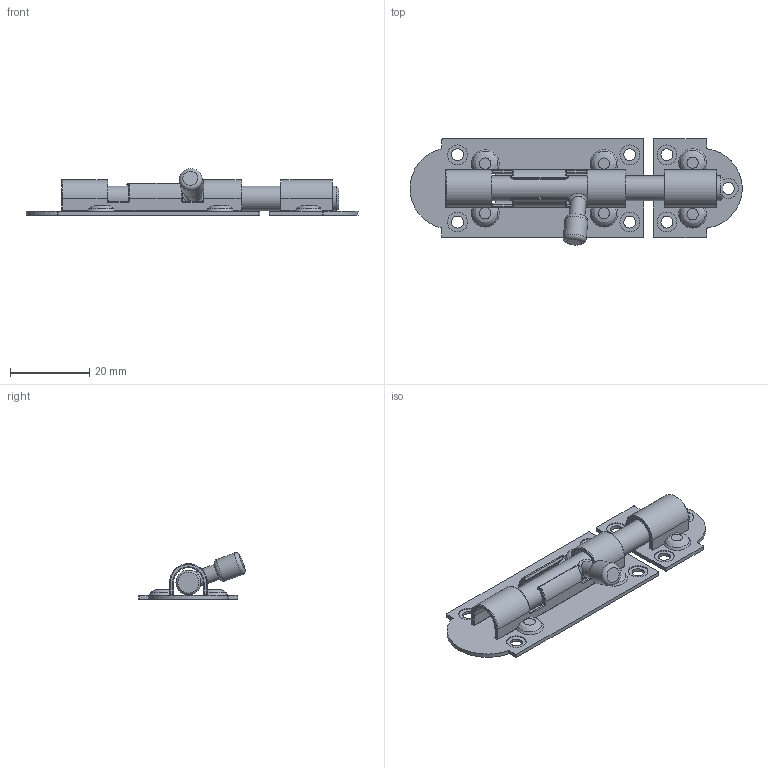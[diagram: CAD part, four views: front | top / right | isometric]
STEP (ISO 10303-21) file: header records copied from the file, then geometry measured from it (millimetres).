
FILE_DESCRIPTION(/* description */ (''),/* implementation_level */ '2;1');
FILE_NAME(/* name */ '\\NAS\db20\ODS3-3\DR_ODS3-3.stp',/* time_stamp */ '2017-09-04T08:31:56+09:00',/* author */ ('user'),/* organization */ (''),/* preprocessor_version */ 'ST-DEVELOPER v15.6',/* originating_system */ 'Autodesk Inventor 2015',/* authorisation */ '');
FILE_SCHEMA (('AUTOMOTIVE_DESIGN { 1 0 10303 214 3 1 1 }'));
Length unit declared in the file: millimetre
Products named in the file (4): DR_ODS3-3-BR; DR_ODS3-3-C; DR_ODS3-3-P; DR_ODS3-3
Bounding box: 83.84 x 26.82 x 11.79 mm (x, y, z)
Volume: 4972.7 mm3; surface area: 7792.7 mm2
Topology: 5 solids, 5 shells, 548 faces, 1349 edges, 816 vertices
Faces by surface type: cylinder 173, bspline 139, plane 132, torus 54, sphere 36, cone 14
Full cylindrical faces by diameter (mm): 3 x7, 4 x1, 5 x7, 5.8 x1, 6.3 x1
Entity records: 27943 total; most frequent: CARTESIAN_POINT 15727, ORIENTED_EDGE 2646, DIRECTION 2356, EDGE_CURVE 1323, AXIS2_PLACEMENT_3D 955, VERTEX_POINT 812, EDGE_LOOP 603, FACE_OUTER_BOUND 548
